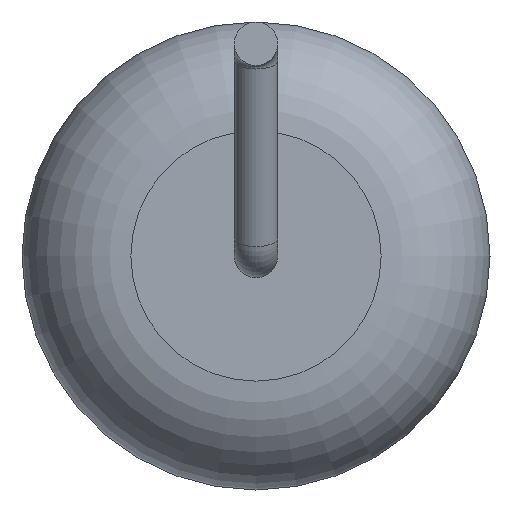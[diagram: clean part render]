
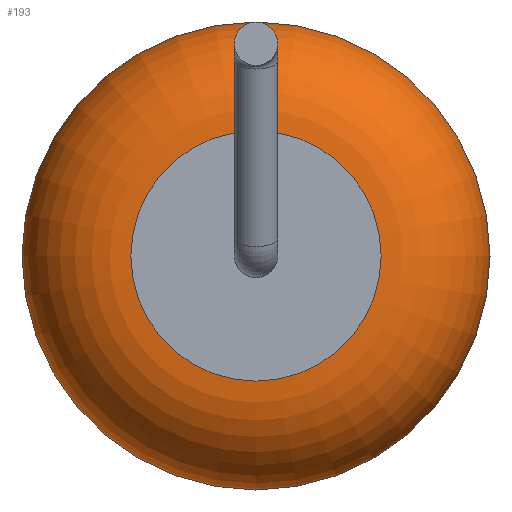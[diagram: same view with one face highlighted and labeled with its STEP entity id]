
A CAD part, left-side view. The second image highlights one B-rep face of the part: STEP entity #193.
In plain terms, the highlighted toroidal (fillet/blend) face has major radius 2.3 mm and minor radius 2 mm.
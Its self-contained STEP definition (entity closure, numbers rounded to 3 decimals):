
#193=ADVANCED_FACE('',(#398,#400),#402,.T.);
#398=FACE_OUTER_BOUND('',#399,.T.);
#399=EDGE_LOOP('',(#497));
#400=FACE_OUTER_BOUND('',#401,.T.);
#401=EDGE_LOOP('',(#498));
#402=TOROIDAL_SURFACE('',#403,2.3,2.);
#403=AXIS2_PLACEMENT_3D('',#404,#405,#406);
#404=CARTESIAN_POINT('',(-12.,0.,0.));
#405=DIRECTION('',(-1.,0.,0.));
#406=DIRECTION('',(0.,0.,1.));
#497=ORIENTED_EDGE('',*,*,#526,.T.);
#498=ORIENTED_EDGE('',*,*,#527,.F.);
#526=EDGE_CURVE('',#562,#562,#563,.T.);
#527=EDGE_CURVE('',#564,#564,#565,.T.);
#562=VERTEX_POINT('',#648);
#563=CIRCLE('',#649,4.3);
#564=VERTEX_POINT('',#653);
#565=CIRCLE('',#654,2.3);
#648=CARTESIAN_POINT('',(-12.,0.,4.3));
#649=AXIS2_PLACEMENT_3D('',#650,#651,#652);
#650=CARTESIAN_POINT('',(-12.,0.,0.));
#651=DIRECTION('',(-1.,0.,0.));
#652=DIRECTION('',(0.,0.,1.));
#653=CARTESIAN_POINT('',(-14.,0.,2.3));
#654=AXIS2_PLACEMENT_3D('',#655,#656,#657);
#655=CARTESIAN_POINT('',(-14.,0.,0.));
#656=DIRECTION('',(-1.,0.,0.));
#657=DIRECTION('',(0.,0.,1.));
